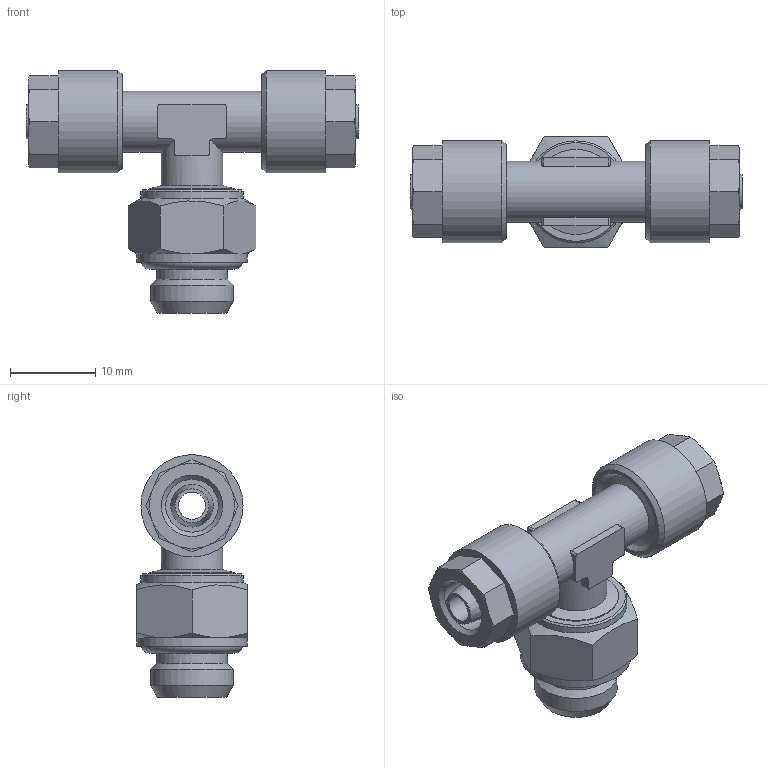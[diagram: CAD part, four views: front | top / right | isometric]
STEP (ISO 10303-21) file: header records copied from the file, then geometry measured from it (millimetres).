
FILE_DESCRIPTION(/* description */ (''),/* implementation_level */ '2;1');
FILE_NAME(/* name */ '12151_307DZ_64_G18_19.01.17',/* time_stamp */ '2017-01-19T08:49:36+01:00',/* author */ (''),/* organization */ (''),/* preprocessor_version */ 'ST-DEVELOPER v16.5',/* originating_system */ 'HiCAD 2016 2102.0 Build 402',/* authorisation */ '');
FILE_SCHEMA (('AUTOMOTIVE_DESIGN { 1 0 10303 214 1 1 1 1 }'));
Length unit declared in the file: millimetre
Products named in the file (6): Root; 17005; Gewindestück_1-8; OR 7.2X1.9; 12152
Assembly tree (5 placements, depth 2):
  Root
    17005
    17005
    Gewindestück_1-8
    OR 7.2X1.9
    12152
Bounding box: 39 x 13 x 28.5 mm (x, y, z)
Volume: 3991 mm3; surface area: 4696.1 mm2
Topology: 5 solids, 5 shells, 143 faces, 349 edges, 223 vertices
Faces by surface type: plane 59, cone 42, cylinder 37, torus 5
Full cylindrical faces by diameter (mm): 3.2 x2, 4.7 x2, 5.5 x1, 6.2 x2, 7.2 x2, 8.3 x1, 8.773 x2, 9.728 x1, 10 x4, 12 x3, 13 x1
Entity records: 9332 total; most frequent: CARTESIAN_POINT 3402, DIRECTION 716, PRESENTATION_STYLE_ASSIGNMENT 551, COLOUR_RGB 548, DRAUGHTING_PRE_DEFINED_CURVE_FONT 546, CURVE_STYLE 546, OVER_RIDING_STYLED_ITEM 546, ORIENTED_EDGE 546
